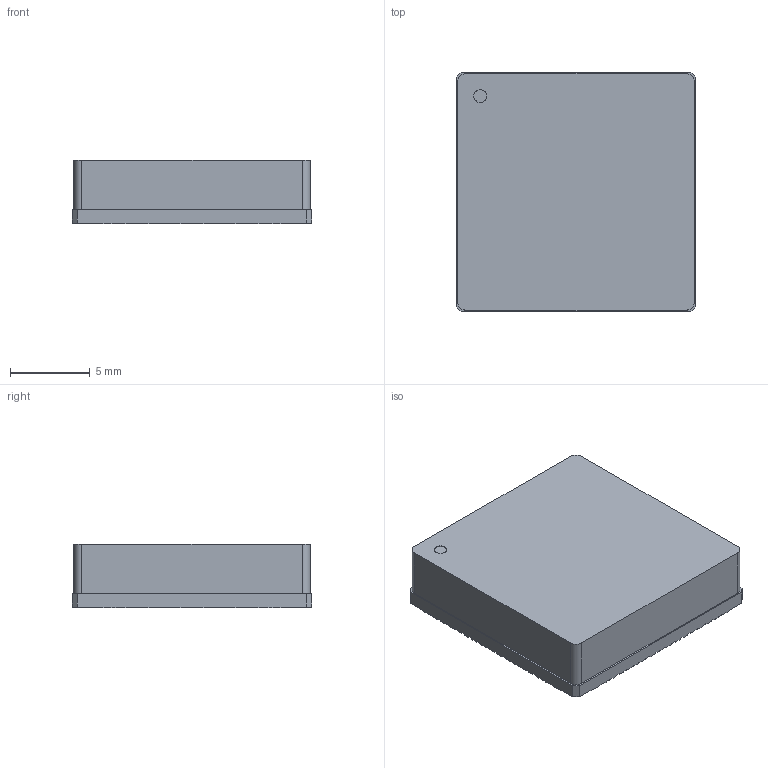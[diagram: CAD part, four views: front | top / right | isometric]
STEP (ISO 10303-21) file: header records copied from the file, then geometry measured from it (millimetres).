
FILE_DESCRIPTION (( 'STEP AP203' ), '1' );
FILE_NAME ('CQFN1515.STEP', '2026-09-22T10:46:27', ( 'Windows User' ), ( 'P R C' ), 'SwSTEP 2.0', 'SolidWorks 2013', '' );
FILE_SCHEMA (( 'CONFIG_CONTROL_DESIGN' ));
Length unit declared in the file: millimetre
Products named in the file (1): CQFN1515
Bounding box: 15 x 15 x 4 mm (x, y, z)
Volume: 878.6 mm3; surface area: 692.1 mm2
Topology: 1 solids, 1 shells, 364 faces, 1077 edges, 718 vertices
Faces by surface type: plane 253, cylinder 111
Entity records: 12200 total; most frequent: CARTESIAN_POINT 2160, ORIENTED_EDGE 2154, DIRECTION 2029, EDGE_CURVE 1077, VECTOR 855, LINE 855, VERTEX_POINT 718, AXIS2_PLACEMENT_3D 587
